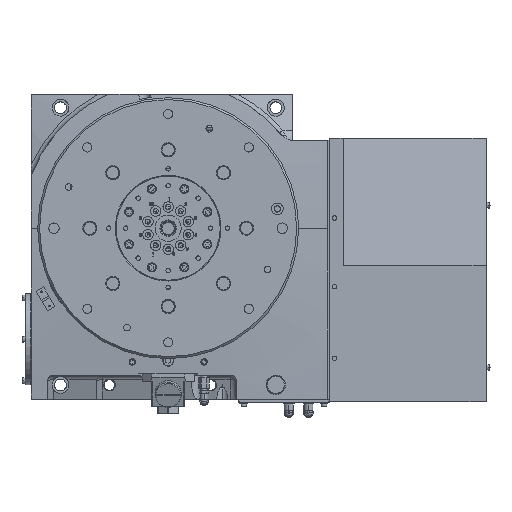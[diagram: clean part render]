
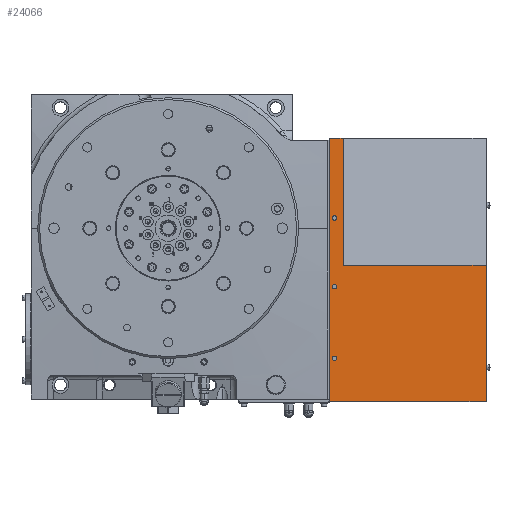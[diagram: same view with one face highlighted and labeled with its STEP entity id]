
A CAD part, top view. The second image highlights one B-rep face of the part: STEP entity #24066.
In plain terms, the highlighted planar face has unit normal (0, 0, 1).
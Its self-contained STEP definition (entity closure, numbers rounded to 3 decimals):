
#1299 = ORIENTED_EDGE ( 'NONE', *, *, #17270, .F. ) ;
#1973 = CARTESIAN_POINT ( 'NONE',  ( 255., -199.5, 218.3 ) ) ;
#2032 = DIRECTION ( 'NONE',  ( 0., -1., 0. ) ) ;
#2221 = EDGE_LOOP ( 'NONE', ( #1299, #35833 ) ) ;
#2493 = ORIENTED_EDGE ( 'NONE', *, *, #59871, .F. ) ;
#3321 = DIRECTION ( 'NONE',  ( 0., 0., 1. ) ) ;
#3450 = CARTESIAN_POINT ( 'NONE',  ( 255., -89.5, 218.3 ) ) ;
#3458 = CARTESIAN_POINT ( 'NONE',  ( 268.3, 138.3, 218.3 ) ) ;
#4410 = CARTESIAN_POINT ( 'NONE',  ( 258.5, -89.5, 218.3 ) ) ;
#4769 = VERTEX_POINT ( 'NONE', #13114 ) ;
#4994 = DIRECTION ( 'NONE',  ( -1., 0., 0. ) ) ;
#5142 = LINE ( 'NONE', #55543, #15632 ) ;
#5757 = CARTESIAN_POINT ( 'NONE',  ( 258.5, -199.5, 218.3 ) ) ;
#6075 = LINE ( 'NONE', #53107, #37813 ) ;
#6213 = AXIS2_PLACEMENT_3D ( 'NONE', #1973, #24876, #11414 ) ;
#6274 = LINE ( 'NONE', #25191, #33299 ) ;
#6289 = EDGE_CURVE ( 'NONE', #50595, #39939, #24923, .T. ) ;
#7401 = EDGE_CURVE ( 'NONE', #20863, #16944, #50179, .T. ) ;
#7704 = CARTESIAN_POINT ( 'NONE',  ( 247., -265.3, 218.3 ) ) ;
#7964 = CARTESIAN_POINT ( 'NONE',  ( 251.5, -199.5, 218.3 ) ) ;
#8848 = FACE_BOUND ( 'NONE', #2221, .T. ) ;
#9213 = DIRECTION ( 'NONE',  ( 1., 0., 0. ) ) ;
#11132 = CARTESIAN_POINT ( 'NONE',  ( 268.3, -57.014, 218.3 ) ) ;
#11414 = DIRECTION ( 'NONE',  ( 1., 0., 0. ) ) ;
#12570 = LINE ( 'NONE', #7704, #59492 ) ;
#12572 = DIRECTION ( 'NONE',  ( 1., 0., 0. ) ) ;
#12833 = FACE_BOUND ( 'NONE', #55316, .T. ) ;
#13114 = CARTESIAN_POINT ( 'NONE',  ( 251.5, 15.5, 218.3 ) ) ;
#13676 = DIRECTION ( 'NONE',  ( 0., 1., 0. ) ) ;
#15212 = VERTEX_POINT ( 'NONE', #50490 ) ;
#15522 = CARTESIAN_POINT ( 'NONE',  ( 247., -265.3, 218.3 ) ) ;
#15632 = VECTOR ( 'NONE', #13676, 1000. ) ;
#15837 = ORIENTED_EDGE ( 'NONE', *, *, #44099, .T. ) ;
#16201 = CARTESIAN_POINT ( 'NONE',  ( 487.3, -265.3, 218.3 ) ) ;
#16944 = VERTEX_POINT ( 'NONE', #7964 ) ;
#17270 = EDGE_CURVE ( 'NONE', #58990, #48096, #32792, .T. ) ;
#17890 = CIRCLE ( 'NONE', #6213, 3.5 ) ;
#18616 = FACE_OUTER_BOUND ( 'NONE', #28691, .T. ) ;
#19562 = CARTESIAN_POINT ( 'NONE',  ( 255., 15.5, 218.3 ) ) ;
#19588 = VERTEX_POINT ( 'NONE', #48871 ) ;
#19871 = DIRECTION ( 'NONE',  ( 1., 0., 0. ) ) ;
#19903 = EDGE_CURVE ( 'NONE', #28392, #40613, #5142, .T. ) ;
#20863 = VERTEX_POINT ( 'NONE', #5757 ) ;
#22075 = ORIENTED_EDGE ( 'NONE', *, *, #7401, .F. ) ;
#22555 = VECTOR ( 'NONE', #4994, 1000. ) ;
#22891 = VERTEX_POINT ( 'NONE', #15522 ) ;
#24066 = ADVANCED_FACE ( 'NONE', ( #59886, #18616, #8848, #12833 ), #51305, .F. ) ;
#24703 = DIRECTION ( 'NONE',  ( 1., 0., 0. ) ) ;
#24876 = DIRECTION ( 'NONE',  ( 0., 0., 1. ) ) ;
#24923 = LINE ( 'NONE', #58223, #42649 ) ;
#25191 = CARTESIAN_POINT ( 'NONE',  ( 485., -57.014, 218.3 ) ) ;
#25440 = AXIS2_PLACEMENT_3D ( 'NONE', #40935, #27497, #46727 ) ;
#26220 = CARTESIAN_POINT ( 'NONE',  ( 255., -89.5, 218.3 ) ) ;
#26346 = CARTESIAN_POINT ( 'NONE',  ( 251.5, -89.5, 218.3 ) ) ;
#26350 = DIRECTION ( 'NONE',  ( 0., 0., 1. ) ) ;
#27497 = DIRECTION ( 'NONE',  ( 0., 0., -1. ) ) ;
#28392 = VERTEX_POINT ( 'NONE', #11132 ) ;
#28691 = EDGE_LOOP ( 'NONE', ( #15837, #30371, #2493, #55003, #35544, #47476 ) ) ;
#28997 = AXIS2_PLACEMENT_3D ( 'NONE', #3450, #37017, #9213 ) ;
#30371 = ORIENTED_EDGE ( 'NONE', *, *, #19903, .T. ) ;
#31171 = EDGE_LOOP ( 'NONE', ( #44560, #56131 ) ) ;
#32792 = CIRCLE ( 'NONE', #38637, 3.5 ) ;
#33299 = VECTOR ( 'NONE', #48431, 1000. ) ;
#34229 = DIRECTION ( 'NONE',  ( 0., 0., 1. ) ) ;
#35301 = CIRCLE ( 'NONE', #50892, 3.5 ) ;
#35544 = ORIENTED_EDGE ( 'NONE', *, *, #44392, .F. ) ;
#35833 = ORIENTED_EDGE ( 'NONE', *, *, #39651, .F. ) ;
#36113 = EDGE_CURVE ( 'NONE', #16944, #20863, #17890, .T. ) ;
#36527 = DIRECTION ( 'NONE',  ( 0., 0., 1. ) ) ;
#36816 = DIRECTION ( 'NONE',  ( 1., 0., 0. ) ) ;
#37017 = DIRECTION ( 'NONE',  ( 0., 0., 1. ) ) ;
#37688 = AXIS2_PLACEMENT_3D ( 'NONE', #19562, #34229, #19871 ) ;
#37813 = VECTOR ( 'NONE', #24703, 1000. ) ;
#38637 = AXIS2_PLACEMENT_3D ( 'NONE', #26220, #3321, #40862 ) ;
#39536 = CARTESIAN_POINT ( 'NONE',  ( 487.3, -57.014, 218.3 ) ) ;
#39651 = EDGE_CURVE ( 'NONE', #48096, #58990, #55339, .T. ) ;
#39939 = VERTEX_POINT ( 'NONE', #16201 ) ;
#40406 = DIRECTION ( 'NONE',  ( 0., 1., 0. ) ) ;
#40613 = VERTEX_POINT ( 'NONE', #3458 ) ;
#40862 = DIRECTION ( 'NONE',  ( 1., 0., 0. ) ) ;
#40935 = CARTESIAN_POINT ( 'NONE',  ( 485., -265.3, 218.3 ) ) ;
#42649 = VECTOR ( 'NONE', #2032, 1000. ) ;
#44099 = EDGE_CURVE ( 'NONE', #50595, #28392, #6274, .T. ) ;
#44392 = EDGE_CURVE ( 'NONE', #39939, #22891, #46251, .T. ) ;
#44560 = ORIENTED_EDGE ( 'NONE', *, *, #58319, .F. ) ;
#45498 = CIRCLE ( 'NONE', #37688, 3.5 ) ;
#46251 = LINE ( 'NONE', #46838, #22555 ) ;
#46727 = DIRECTION ( 'NONE',  ( 0., 1., 0. ) ) ;
#46838 = CARTESIAN_POINT ( 'NONE',  ( 485., -265.3, 218.3 ) ) ;
#47476 = ORIENTED_EDGE ( 'NONE', *, *, #6289, .F. ) ;
#48096 = VERTEX_POINT ( 'NONE', #26346 ) ;
#48104 = EDGE_CURVE ( 'NONE', #22891, #15212, #12570, .T. ) ;
#48431 = DIRECTION ( 'NONE',  ( -1., 0., 0. ) ) ;
#48871 = CARTESIAN_POINT ( 'NONE',  ( 258.5, 15.5, 218.3 ) ) ;
#50011 = ORIENTED_EDGE ( 'NONE', *, *, #36113, .F. ) ;
#50179 = CIRCLE ( 'NONE', #54088, 3.5 ) ;
#50253 = EDGE_CURVE ( 'NONE', #4769, #19588, #35301, .T. ) ;
#50490 = CARTESIAN_POINT ( 'NONE',  ( 247., 138.3, 218.3 ) ) ;
#50595 = VERTEX_POINT ( 'NONE', #39536 ) ;
#50892 = AXIS2_PLACEMENT_3D ( 'NONE', #59731, #36527, #36816 ) ;
#51305 = PLANE ( 'NONE',  #25440 ) ;
#53107 = CARTESIAN_POINT ( 'NONE',  ( 266., 138.3, 218.3 ) ) ;
#54088 = AXIS2_PLACEMENT_3D ( 'NONE', #55363, #26350, #12572 ) ;
#55003 = ORIENTED_EDGE ( 'NONE', *, *, #48104, .F. ) ;
#55316 = EDGE_LOOP ( 'NONE', ( #22075, #50011 ) ) ;
#55339 = CIRCLE ( 'NONE', #28997, 3.5 ) ;
#55363 = CARTESIAN_POINT ( 'NONE',  ( 255., -199.5, 218.3 ) ) ;
#55543 = CARTESIAN_POINT ( 'NONE',  ( 268.3, -265.3, 218.3 ) ) ;
#56131 = ORIENTED_EDGE ( 'NONE', *, *, #50253, .F. ) ;
#58223 = CARTESIAN_POINT ( 'NONE',  ( 487.3, -57.014, 218.3 ) ) ;
#58319 = EDGE_CURVE ( 'NONE', #19588, #4769, #45498, .T. ) ;
#58990 = VERTEX_POINT ( 'NONE', #4410 ) ;
#59492 = VECTOR ( 'NONE', #40406, 1000. ) ;
#59731 = CARTESIAN_POINT ( 'NONE',  ( 255., 15.5, 218.3 ) ) ;
#59871 = EDGE_CURVE ( 'NONE', #15212, #40613, #6075, .T. ) ;
#59886 = FACE_BOUND ( 'NONE', #31171, .T. ) ;
